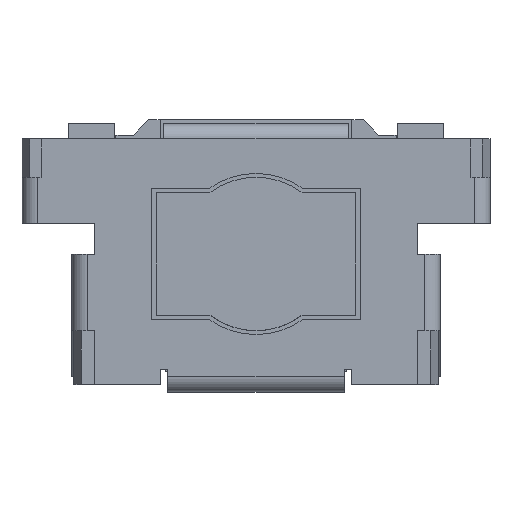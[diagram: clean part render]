
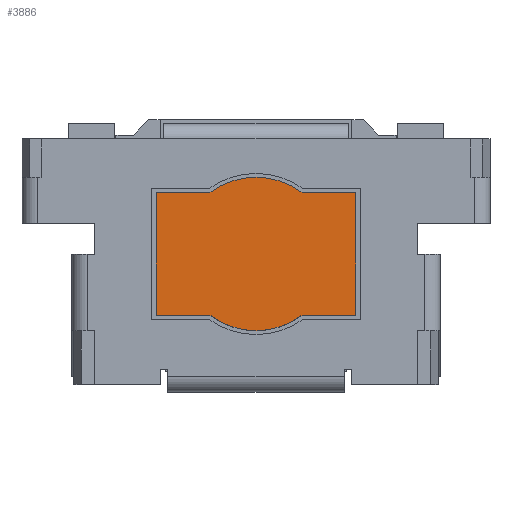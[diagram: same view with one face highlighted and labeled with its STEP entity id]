
A CAD part, top view. The second image highlights one B-rep face of the part: STEP entity #3886.
In plain terms, the highlighted planar face has unit normal (0, 0, 1).
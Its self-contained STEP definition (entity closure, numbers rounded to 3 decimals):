
#25=DIRECTION('',(1.,0.,0.));
#26=VECTOR('',#25,0.7);
#27=CARTESIAN_POINT('',(-1.3,0.8,0.63));
#28=LINE('',#27,#26);
#39=DIRECTION('',(0.,1.,0.));
#40=VECTOR('',#39,1.6);
#41=CARTESIAN_POINT('',(-1.3,-0.8,0.63));
#42=LINE('',#41,#40);
#53=DIRECTION('',(-1.,0.,0.));
#54=VECTOR('',#53,0.7);
#55=CARTESIAN_POINT('',(-0.6,-0.8,0.63));
#56=LINE('',#55,#54);
#74=DIRECTION('',(-1.,0.,0.));
#75=VECTOR('',#74,0.7);
#76=CARTESIAN_POINT('',(1.3,-0.8,0.63));
#77=LINE('',#76,#75);
#88=DIRECTION('',(0.,-1.,0.));
#89=VECTOR('',#88,1.6);
#90=CARTESIAN_POINT('',(1.3,0.8,0.63));
#91=LINE('',#90,#89);
#102=DIRECTION('',(1.,0.,0.));
#103=VECTOR('',#102,0.7);
#104=CARTESIAN_POINT('',(0.6,0.8,0.63));
#105=LINE('',#104,#103);
#1809=CARTESIAN_POINT('',(0.,0.,0.63));
#1810=DIRECTION('',(0.,0.,1.));
#1811=DIRECTION('',(0.6,0.8,0.));
#1812=AXIS2_PLACEMENT_3D('',#1809,#1810,#1811);
#1817=CARTESIAN_POINT('',(0.,0.,0.63));
#1818=DIRECTION('',(0.,0.,1.));
#1819=DIRECTION('',(-0.6,-0.8,0.));
#1820=AXIS2_PLACEMENT_3D('',#1817,#1818,#1819);
#1825=CARTESIAN_POINT('',(-1.3,0.8,0.63));
#1827=VERTEX_POINT('',#1825);
#1829=CARTESIAN_POINT('',(-0.6,0.8,0.63));
#1830=VERTEX_POINT('',#1829);
#1901=CARTESIAN_POINT('',(-1.3,-0.8,0.63));
#1902=VERTEX_POINT('',#1901);
#1903=CARTESIAN_POINT('',(-0.6,-0.8,0.63));
#1904=VERTEX_POINT('',#1903);
#1905=CARTESIAN_POINT('',(0.6,-0.8,0.63));
#1906=VERTEX_POINT('',#1905);
#1907=CARTESIAN_POINT('',(1.3,-0.8,0.63));
#1908=VERTEX_POINT('',#1907);
#1909=CARTESIAN_POINT('',(1.3,0.8,0.63));
#1910=VERTEX_POINT('',#1909);
#1911=CARTESIAN_POINT('',(0.6,0.8,0.63));
#1912=VERTEX_POINT('',#1911);
#3871=CARTESIAN_POINT('',(0.,0.,0.63));
#3872=DIRECTION('',(0.,0.,1.));
#3873=DIRECTION('',(1.,0.,0.));
#3874=AXIS2_PLACEMENT_3D('',#3871,#3872,#3873);
#3875=PLANE('',#3874);
#3876=ORIENTED_EDGE('',*,*,#2203,.T.);
#3877=ORIENTED_EDGE('',*,*,#2176,.T.);
#3878=ORIENTED_EDGE('',*,*,#2364,.F.);
#3879=ORIENTED_EDGE('',*,*,#2338,.T.);
#3880=ORIENTED_EDGE('',*,*,#2311,.T.);
#3881=ORIENTED_EDGE('',*,*,#2284,.T.);
#3882=ORIENTED_EDGE('',*,*,#2257,.F.);
#3883=ORIENTED_EDGE('',*,*,#2230,.T.);
#3884=EDGE_LOOP('',(#3876,#3877,#3878,#3879,#3880,#3881,#3882,#3883));
#3885=FACE_OUTER_BOUND('',#3884,.F.);
#1813=CIRCLE('',#1812,1.);
#1821=CIRCLE('',#1820,1.);
#2176=EDGE_CURVE('',#1827,#1830,#28,.T.);
#2203=EDGE_CURVE('',#1902,#1827,#42,.T.);
#2230=EDGE_CURVE('',#1904,#1902,#56,.T.);
#2257=EDGE_CURVE('',#1904,#1906,#1821,.T.);
#2284=EDGE_CURVE('',#1908,#1906,#77,.T.);
#2311=EDGE_CURVE('',#1910,#1908,#91,.T.);
#2338=EDGE_CURVE('',#1912,#1910,#105,.T.);
#2364=EDGE_CURVE('',#1912,#1830,#1813,.T.);
#3886=ADVANCED_FACE('',(#3885),#3875,.T.);
